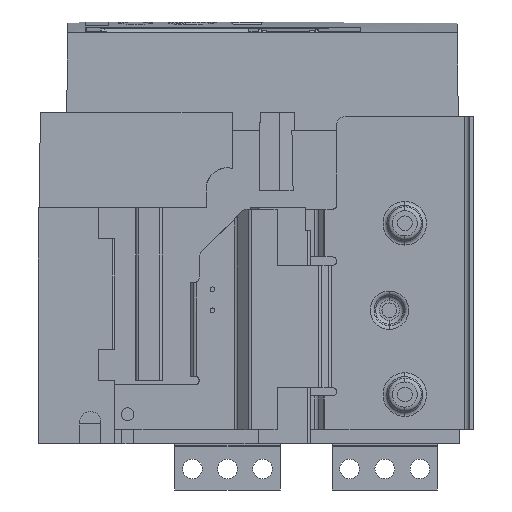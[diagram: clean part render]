
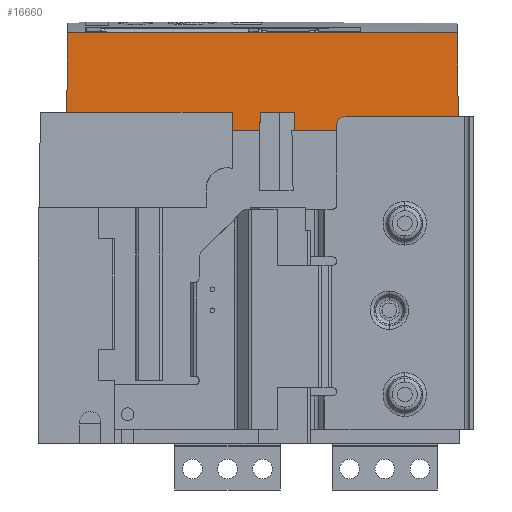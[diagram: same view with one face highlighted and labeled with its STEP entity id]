
A CAD part, left-side view. The second image highlights one B-rep face of the part: STEP entity #16660.
In plain terms, the highlighted planar face has unit normal (-1, 0, 0.014).
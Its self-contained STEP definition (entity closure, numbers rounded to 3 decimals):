
#6348 = LINE ( 'NONE', #66377, #23774 ) ;
#9889 = DIRECTION ( 'NONE',  ( -0.014, 0.014, -1. ) ) ;
#10652 = ORIENTED_EDGE ( 'NONE', *, *, #11544, .F. ) ;
#11544 = EDGE_CURVE ( 'NONE', #117890, #118829, #155497, .T. ) ;
#16385 = CARTESIAN_POINT ( 'NONE',  ( -18.139, 108.106, 281.729 ) ) ;
#16395 = LINE ( 'NONE', #40259, #94489 ) ;
#16642 = VERTEX_POINT ( 'NONE', #16385 ) ;
#16660 = ADVANCED_FACE ( 'NONE', ( #41688 ), #100667, .T. ) ;
#18578 = ORIENTED_EDGE ( 'NONE', *, *, #98506, .T. ) ;
#19719 = ORIENTED_EDGE ( 'NONE', *, *, #104617, .F. ) ;
#21171 = ORIENTED_EDGE ( 'NONE', *, *, #44834, .F. ) ;
#23329 = CARTESIAN_POINT ( 'NONE',  ( -17.958, 245.956, 294.7 ) ) ;
#23774 = VECTOR ( 'NONE', #23943, 1000. ) ;
#23809 = VECTOR ( 'NONE', #93599, 1000. ) ;
#23943 = DIRECTION ( 'NONE',  ( 0., 1., 0. ) ) ;
#24228 = CARTESIAN_POINT ( 'NONE',  ( -17.958, 383.756, 294.7 ) ) ;
#24398 = ORIENTED_EDGE ( 'NONE', *, *, #63170, .T. ) ;
#25328 = ORIENTED_EDGE ( 'NONE', *, *, #76699, .T. ) ;
#26187 = CARTESIAN_POINT ( 'NONE',  ( -17.166, 105.646, 351.35 ) ) ;
#27008 = LINE ( 'NONE', #166703, #133183 ) ;
#27541 = EDGE_CURVE ( 'NONE', #119274, #99594, #75857, .T. ) ;
#31807 = VERTEX_POINT ( 'NONE', #93319 ) ;
#31933 = LINE ( 'NONE', #71752, #112082 ) ;
#32758 = DIRECTION ( 'NONE',  ( -1., 0., 0.014 ) ) ;
#33493 = CARTESIAN_POINT ( 'NONE',  ( -18.901, 220.908, 227.133 ) ) ;
#34120 = VECTOR ( 'NONE', #169771, 1000. ) ;
#36358 = DIRECTION ( 'NONE',  ( 0., 1., 0. ) ) ;
#36507 = VECTOR ( 'NONE', #68556, 1000. ) ;
#39025 = VECTOR ( 'NONE', #36358, 1000. ) ;
#40259 = CARTESIAN_POINT ( 'NONE',  ( -17.958, 103.906, 294.7 ) ) ;
#41028 = CARTESIAN_POINT ( 'NONE',  ( -17.166, 382.965, 351.35 ) ) ;
#41688 = FACE_OUTER_BOUND ( 'NONE', #85905, .T. ) ;
#44834 = EDGE_CURVE ( 'NONE', #16642, #31807, #145745, .T. ) ;
#46709 = DIRECTION ( 'NONE',  ( 0., 1., 0. ) ) ;
#46962 = ORIENTED_EDGE ( 'NONE', *, *, #127946, .F. ) ;
#49471 = VERTEX_POINT ( 'NONE', #91734 ) ;
#50789 = ORIENTED_EDGE ( 'NONE', *, *, #120346, .F. ) ;
#51961 = LINE ( 'NONE', #54154, #112591 ) ;
#54154 = CARTESIAN_POINT ( 'NONE',  ( -18.852, 384.651, 230.619 ) ) ;
#57905 = ORIENTED_EDGE ( 'NONE', *, *, #89176, .T. ) ;
#60256 = CARTESIAN_POINT ( 'NONE',  ( -18.139, -254.543, 281.729 ) ) ;
#60686 = VERTEX_POINT ( 'NONE', #24228 ) ;
#62334 = VERTEX_POINT ( 'NONE', #23329 ) ;
#63170 = EDGE_CURVE ( 'NONE', #16642, #104913, #127551, .T. ) ;
#65747 = CARTESIAN_POINT ( 'NONE',  ( -18.938, 264.874, 224.453 ) ) ;
#66377 = CARTESIAN_POINT ( 'NONE',  ( -17.958, 103.906, 294.7 ) ) ;
#68556 = DIRECTION ( 'NONE',  ( -0.014, 0., -1. ) ) ;
#71752 = CARTESIAN_POINT ( 'NONE',  ( -18.907, 103.906, 226.7 ) ) ;
#72679 = ORIENTED_EDGE ( 'NONE', *, *, #144318, .F. ) ;
#75857 = LINE ( 'NONE', #105409, #39025 ) ;
#76699 = EDGE_CURVE ( 'NONE', #99594, #60686, #51961, .T. ) ;
#83237 = DIRECTION ( 'NONE',  ( -0.014, 0.014, -1. ) ) ;
#85080 = CARTESIAN_POINT ( 'NONE',  ( -18.907, 103.906, 226.7 ) ) ;
#85176 = LINE ( 'NONE', #136584, #150093 ) ;
#85649 = DIRECTION ( 'NONE',  ( -0.014, -0.014, -1. ) ) ;
#85905 = EDGE_LOOP ( 'NONE', ( #21171, #24398, #19719, #46962, #144282, #25328, #120323, #57905, #10652, #72679, #50789, #18578 ) ) ;
#89176 = EDGE_CURVE ( 'NONE', #49471, #118829, #103977, .T. ) ;
#90254 = CARTESIAN_POINT ( 'NONE',  ( -18.907, 103.906, 226.7 ) ) ;
#91734 = CARTESIAN_POINT ( 'NONE',  ( -17.958, 265.855, 294.7 ) ) ;
#93319 = CARTESIAN_POINT ( 'NONE',  ( -18.139, 221.224, 281.729 ) ) ;
#93599 = DIRECTION ( 'NONE',  ( -0.014, -0.014, -1. ) ) ;
#94489 = VECTOR ( 'NONE', #164931, 1000. ) ;
#95219 = CARTESIAN_POINT ( 'NONE',  ( -19.158, 108.106, 208.756 ) ) ;
#98506 = EDGE_CURVE ( 'NONE', #159771, #31807, #157799, .T. ) ;
#99594 = VERTEX_POINT ( 'NONE', #41028 ) ;
#100667 = PLANE ( 'NONE',  #124518 ) ;
#102386 = CARTESIAN_POINT ( 'NONE',  ( -18.139, 265.674, 281.729 ) ) ;
#103977 = LINE ( 'NONE', #65747, #23809 ) ;
#104617 = EDGE_CURVE ( 'NONE', #168351, #104913, #85176, .T. ) ;
#104913 = VERTEX_POINT ( 'NONE', #112969 ) ;
#105409 = CARTESIAN_POINT ( 'NONE',  ( -17.166, 103.906, 351.35 ) ) ;
#112082 = VECTOR ( 'NONE', #85649, 1000. ) ;
#112591 = VECTOR ( 'NONE', #9889, 1000. ) ;
#112969 = CARTESIAN_POINT ( 'NONE',  ( -18.907, 108.106, 226.7 ) ) ;
#117890 = VERTEX_POINT ( 'NONE', #154239 ) ;
#118829 = VERTEX_POINT ( 'NONE', #102386 ) ;
#119274 = VERTEX_POINT ( 'NONE', #26187 ) ;
#120323 = ORIENTED_EDGE ( 'NONE', *, *, #173853, .F. ) ;
#120346 = EDGE_CURVE ( 'NONE', #159771, #62334, #6348, .T. ) ;
#121070 = VECTOR ( 'NONE', #130970, 1000. ) ;
#124518 = AXIS2_PLACEMENT_3D ( 'NONE', #90254, #32758, #46709 ) ;
#127551 = LINE ( 'NONE', #95219, #36507 ) ;
#127946 = EDGE_CURVE ( 'NONE', #119274, #168351, #31933, .T. ) ;
#130643 = CARTESIAN_POINT ( 'NONE',  ( -17.958, 221.299, 294.7 ) ) ;
#130970 = DIRECTION ( 'NONE',  ( -0.014, -0.006, -1. ) ) ;
#133183 = VECTOR ( 'NONE', #83237, 1000. ) ;
#135737 = CARTESIAN_POINT ( 'NONE',  ( -18.139, -254.543, 281.729 ) ) ;
#136584 = CARTESIAN_POINT ( 'NONE',  ( -18.907, 103.906, 226.7 ) ) ;
#141410 = VECTOR ( 'NONE', #162344, 1000. ) ;
#144282 = ORIENTED_EDGE ( 'NONE', *, *, #27541, .T. ) ;
#144318 = EDGE_CURVE ( 'NONE', #62334, #117890, #27008, .T. ) ;
#145745 = LINE ( 'NONE', #135737, #141410 ) ;
#150093 = VECTOR ( 'NONE', #162582, 1000. ) ;
#154239 = CARTESIAN_POINT ( 'NONE',  ( -18.139, 246.137, 281.729 ) ) ;
#155497 = LINE ( 'NONE', #60256, #34120 ) ;
#157799 = LINE ( 'NONE', #33493, #121070 ) ;
#159771 = VERTEX_POINT ( 'NONE', #130643 ) ;
#162344 = DIRECTION ( 'NONE',  ( 0., 1., 0. ) ) ;
#162582 = DIRECTION ( 'NONE',  ( 0., 1., 0. ) ) ;
#164931 = DIRECTION ( 'NONE',  ( 0., 1., 0. ) ) ;
#166703 = CARTESIAN_POINT ( 'NONE',  ( -18.879, 246.878, 228.696 ) ) ;
#168351 = VERTEX_POINT ( 'NONE', #85080 ) ;
#169771 = DIRECTION ( 'NONE',  ( 0., 1., 0. ) ) ;
#173853 = EDGE_CURVE ( 'NONE', #49471, #60686, #16395, .T. ) ;
